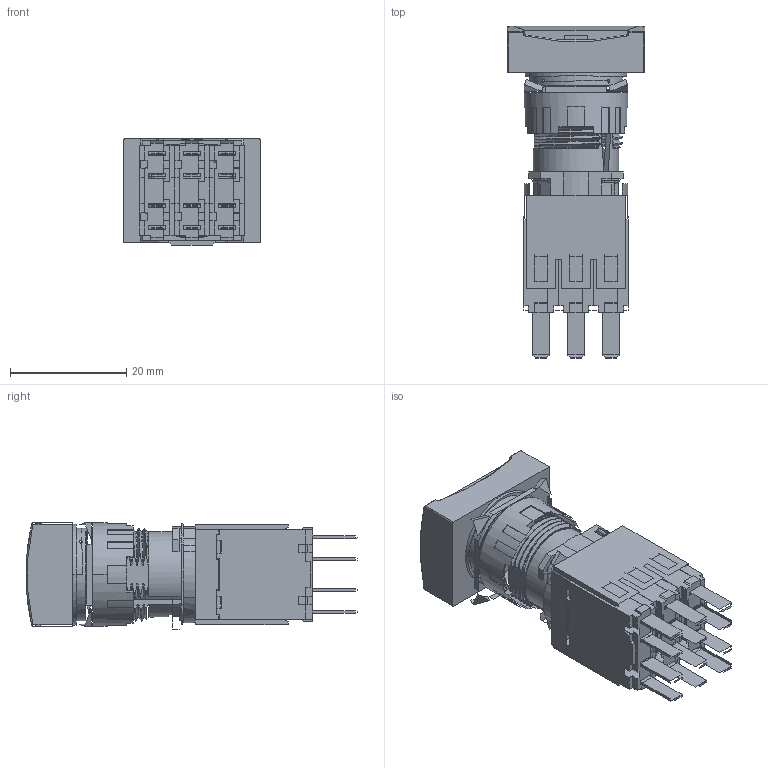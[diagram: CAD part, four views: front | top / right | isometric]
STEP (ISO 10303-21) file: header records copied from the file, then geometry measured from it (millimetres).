
FILE_DESCRIPTION((''),'2;1');
FILE_NAME('XB6DA61B','2016-04-04T',('EBBX743'),('Schneider-Electric'),'PRO/ENGINEER BY PARAMETRIC TECHNOLOGY CORPORATION, 2014310','PRO/ENGINEER BY PARAMETRIC TECHNOLOGY CORPORATION, 2014310','');
FILE_SCHEMA(('CONFIG_CONTROL_DESIGN'));
Length unit declared in the file: millimetre
Products named in the file (1): XB6DA61B
Bounding box: 23.7 x 57.13 x 18.3 mm (x, y, z)
Surface area: 5825.4 mm2 (no closed solid volume)
Topology: 0 solids, 85 shells, 299 faces, 1719 edges, 1470 vertices
Faces by surface type: plane 171, cylinder 64, bspline 54, torus 10
Entity records: 32068 total; most frequent: CARTESIAN_POINT 19856, DIRECTION 2224, ORIENTED_EDGE 2062, EDGE_CURVE 1719, VERTEX_POINT 1470, VECTOR 1292, LINE 1292, AXIS2_PLACEMENT_3D 466
